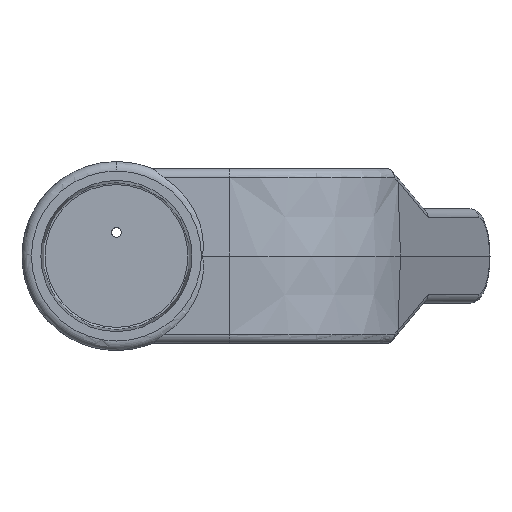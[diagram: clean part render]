
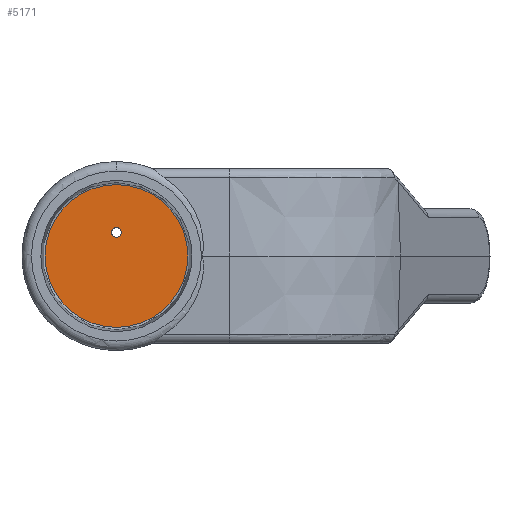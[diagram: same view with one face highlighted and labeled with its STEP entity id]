
A CAD part, left-side view. The second image highlights one B-rep face of the part: STEP entity #5171.
In plain terms, the highlighted planar face has unit normal (-1, 0, 0).
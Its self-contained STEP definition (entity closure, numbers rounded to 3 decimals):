
#5131=CARTESIAN_POINT('',(110.5,0.,15.116));
#5132=VERTEX_POINT('',#5131);
#5142=CARTESIAN_POINT('',(110.5,0.,0.));
#5143=DIRECTION('',(-0.,0.,1.));
#5144=DIRECTION('',(1.,0.,0.));
#5145=AXIS2_PLACEMENT_3D('',#5142,#5144,#5143);
#5146=CIRCLE('',#5145,15.116);
#5147=EDGE_CURVE('',#5132,#5132,#5146,.T.);
#5152=CARTESIAN_POINT('',(110.5,0.,0.));
#5153=DIRECTION('',(0.,0.,1.));
#5154=DIRECTION('',(1.,0.,-0.));
#5155=AXIS2_PLACEMENT_3D('',#5152,#5154,#5153);
#5156=PLANE('',#5155);
#5157=ORIENTED_EDGE('',*,*,#5147,.T.);
#5158=EDGE_LOOP('',(#5157));
#5159=FACE_OUTER_BOUND('',#5158,.F.);
#5160=CARTESIAN_POINT('',(110.5,0.,6.));
#5161=VERTEX_POINT('',#5160);
#5162=CARTESIAN_POINT('',(110.5,0.,5.));
#5163=DIRECTION('',(-0.,0.,1.));
#5164=DIRECTION('',(1.,0.,0.));
#5165=AXIS2_PLACEMENT_3D('',#5162,#5164,#5163);
#5166=CIRCLE('',#5165,1.);
#5167=EDGE_CURVE('',#5161,#5161,#5166,.T.);
#5168=ORIENTED_EDGE('E306',*,*,#5167,.F.);
#5169=EDGE_LOOP('',(#5168));
#5170=FACE_BOUND('',#5169,.F.);
#5171=ADVANCED_FACE('F841',(#5159,#5170),#5156,.F.);
